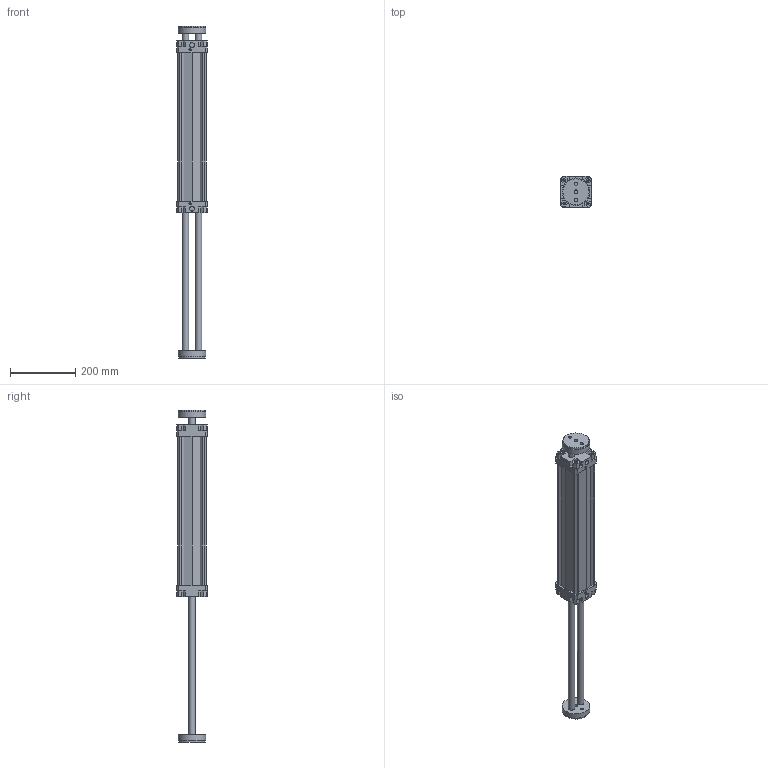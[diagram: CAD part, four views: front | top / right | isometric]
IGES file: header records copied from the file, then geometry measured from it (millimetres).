
Global section: file name: 132#_080_0400_06; native system: Autodesk Inventor 2014; preprocessor: unknown; author: A. Manieri; date: 20161006.162507; units: millimetre
Bounding box: 95 x 95 x 1020 mm (x, y, z)
Volume: 2469193.2 mm3; surface area: 534172.9 mm2
Topology: 2 solids, 2 shells, 190 faces, 518 edges, 354 vertices
Faces by surface type: bspline 190
